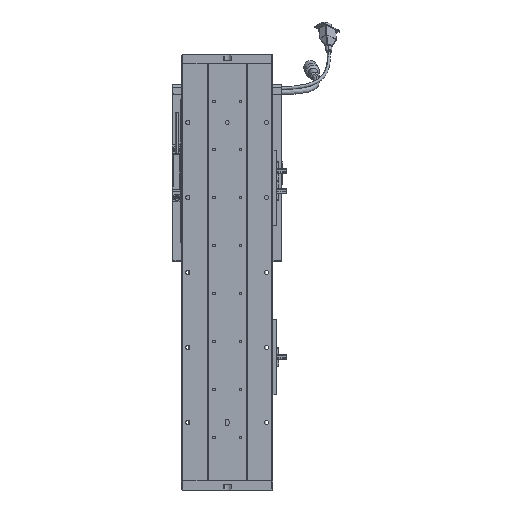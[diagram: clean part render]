
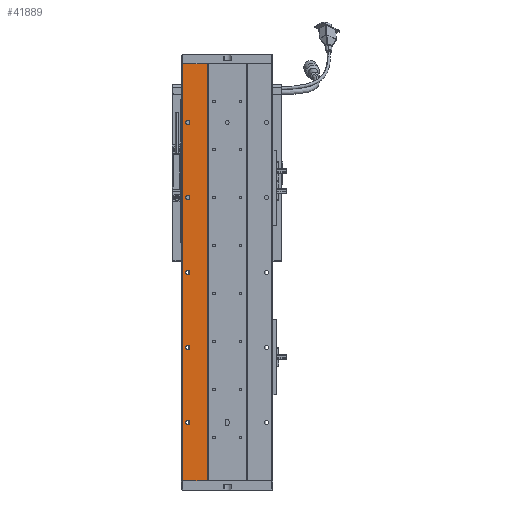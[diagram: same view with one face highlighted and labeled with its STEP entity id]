
A CAD part, front view. The second image highlights one B-rep face of the part: STEP entity #41889.
In plain terms, the highlighted planar face has unit normal (0, -1, 0).
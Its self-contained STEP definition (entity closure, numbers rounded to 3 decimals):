
#170 = EDGE_CURVE ( 'NONE', #13184, #20991, #50727, .T. ) ;
#188 = ORIENTED_EDGE ( 'NONE', *, *, #27366, .T. ) ;
#329 = VERTEX_POINT ( 'NONE', #19940 ) ;
#362 = AXIS2_PLACEMENT_3D ( 'NONE', #31883, #48908, #70758 ) ;
#965 = DIRECTION ( 'NONE',  ( 0., 1., 0. ) ) ;
#1473 = CARTESIAN_POINT ( 'NONE',  ( 102.625, 76.768, 380.75 ) ) ;
#1496 = VERTEX_POINT ( 'NONE', #48397 ) ;
#1870 = VERTEX_POINT ( 'NONE', #30576 ) ;
#4103 = AXIS2_PLACEMENT_3D ( 'NONE', #67833, #46185, #29647 ) ;
#4301 = AXIS2_PLACEMENT_3D ( 'NONE', #46359, #28596, #51931 ) ;
#4437 = ORIENTED_EDGE ( 'NONE', *, *, #34487, .T. ) ;
#4896 = CARTESIAN_POINT ( 'NONE',  ( 102.625, 76.768, 375.25 ) ) ;
#5286 = VECTOR ( 'NONE', #28447, 1000. ) ;
#6544 = DIRECTION ( 'NONE',  ( 0., 0., 1. ) ) ;
#6905 = DIRECTION ( 'NONE',  ( 0., 1., 0. ) ) ;
#7083 = CARTESIAN_POINT ( 'NONE',  ( 0., 76.768, 0. ) ) ;
#7270 = ORIENTED_EDGE ( 'NONE', *, *, #18474, .T. ) ;
#7287 = EDGE_CURVE ( 'NONE', #20991, #13184, #27241, .T. ) ;
#9016 = DIRECTION ( 'NONE',  ( 0., 0., 1. ) ) ;
#9675 = VECTOR ( 'NONE', #38355, 1000. ) ;
#9683 = ORIENTED_EDGE ( 'NONE', *, *, #55378, .T. ) ;
#9770 = FACE_OUTER_BOUND ( 'NONE', #53682, .T. ) ;
#10650 = CARTESIAN_POINT ( 'NONE',  ( 102.625, 76.768, 75.25 ) ) ;
#12932 = ORIENTED_EDGE ( 'NONE', *, *, #60046, .T. ) ;
#13184 = VERTEX_POINT ( 'NONE', #71368 ) ;
#13285 = FACE_BOUND ( 'NONE', #64942, .T. ) ;
#14391 = EDGE_CURVE ( 'NONE', #32029, #45362, #37037, .T. ) ;
#15965 = CARTESIAN_POINT ( 'NONE',  ( 102.625, 76.768, 78. ) ) ;
#16220 = CARTESIAN_POINT ( 'NONE',  ( 95.718, 76.768, 556. ) ) ;
#17291 = CIRCLE ( 'NONE', #66575, 2.75 ) ;
#17539 = DIRECTION ( 'NONE',  ( 0., 0., -1. ) ) ;
#18474 = EDGE_CURVE ( 'NONE', #67087, #71385, #54405, .T. ) ;
#19581 = VERTEX_POINT ( 'NONE', #51735 ) ;
#19783 = DIRECTION ( 'NONE',  ( 0., 0., 1. ) ) ;
#19940 = CARTESIAN_POINT ( 'NONE',  ( 102.625, 76.768, 275.25 ) ) ;
#20786 = DIRECTION ( 'NONE',  ( 0., 0., 1. ) ) ;
#20991 = VERTEX_POINT ( 'NONE', #64189 ) ;
#21822 = AXIS2_PLACEMENT_3D ( 'NONE', #15965, #32758, #49786 ) ;
#23296 = AXIS2_PLACEMENT_3D ( 'NONE', #29465, #63254, #46991 ) ;
#23820 = CARTESIAN_POINT ( 'NONE',  ( 128.625, 76.768, 556. ) ) ;
#24113 = CARTESIAN_POINT ( 'NONE',  ( 102.625, 76.768, 280.75 ) ) ;
#25010 = EDGE_CURVE ( 'NONE', #45362, #32029, #40916, .T. ) ;
#25746 = LINE ( 'NONE', #7083, #53598 ) ;
#27182 = CARTESIAN_POINT ( 'NONE',  ( 102.625, 76.768, 175.25 ) ) ;
#27241 = CIRCLE ( 'NONE', #60525, 2.75 ) ;
#27366 = EDGE_CURVE ( 'NONE', #42417, #329, #32644, .T. ) ;
#27481 = VERTEX_POINT ( 'NONE', #33086 ) ;
#27878 = LINE ( 'NONE', #16220, #9675 ) ;
#28447 = DIRECTION ( 'NONE',  ( -1., 0., 0. ) ) ;
#28596 = DIRECTION ( 'NONE',  ( 0., 1., 0. ) ) ;
#29190 = VERTEX_POINT ( 'NONE', #27182 ) ;
#29465 = CARTESIAN_POINT ( 'NONE',  ( 102.625, 76.768, 478. ) ) ;
#29647 = DIRECTION ( 'NONE',  ( 0., 0., 1. ) ) ;
#30576 = CARTESIAN_POINT ( 'NONE',  ( 95.718, 76.768, 556. ) ) ;
#30701 = EDGE_CURVE ( 'NONE', #1496, #1870, #27878, .T. ) ;
#31883 = CARTESIAN_POINT ( 'NONE',  ( 102.625, 76.768, 278. ) ) ;
#31902 = ORIENTED_EDGE ( 'NONE', *, *, #66125, .F. ) ;
#32029 = VERTEX_POINT ( 'NONE', #1473 ) ;
#32568 = DIRECTION ( 'NONE',  ( 0., 0., 1. ) ) ;
#32644 = CIRCLE ( 'NONE', #362, 2.75 ) ;
#32758 = DIRECTION ( 'NONE',  ( 0., 1., 0. ) ) ;
#33086 = CARTESIAN_POINT ( 'NONE',  ( 128.625, 76.768, 0. ) ) ;
#33250 = AXIS2_PLACEMENT_3D ( 'NONE', #69653, #47556, #19783 ) ;
#34487 = EDGE_CURVE ( 'NONE', #19581, #1870, #70472, .T. ) ;
#34677 = PLANE ( 'NONE',  #4301 ) ;
#34826 = DIRECTION ( 'NONE',  ( 0., 0., 1. ) ) ;
#35234 = ORIENTED_EDGE ( 'NONE', *, *, #25010, .T. ) ;
#35240 = DIRECTION ( 'NONE',  ( -1., 0., 0. ) ) ;
#37037 = CIRCLE ( 'NONE', #48720, 2.75 ) ;
#37423 = EDGE_CURVE ( 'NONE', #27481, #1496, #25746, .T. ) ;
#37694 = ORIENTED_EDGE ( 'NONE', *, *, #30701, .F. ) ;
#38355 = DIRECTION ( 'NONE',  ( 0., 0., 1. ) ) ;
#38408 = ORIENTED_EDGE ( 'NONE', *, *, #52062, .T. ) ;
#38461 = CIRCLE ( 'NONE', #59317, 2.75 ) ;
#39134 = ORIENTED_EDGE ( 'NONE', *, *, #55576, .T. ) ;
#40916 = CIRCLE ( 'NONE', #33250, 2.75 ) ;
#41889 = ADVANCED_FACE ( 'NONE', ( #54158, #50659, #56707, #13285, #68945, #9770 ), #34677, .F. ) ;
#42299 = DIRECTION ( 'NONE',  ( 0., 1., 0. ) ) ;
#42417 = VERTEX_POINT ( 'NONE', #24113 ) ;
#45362 = VERTEX_POINT ( 'NONE', #4896 ) ;
#46070 = CIRCLE ( 'NONE', #21822, 2.75 ) ;
#46185 = DIRECTION ( 'NONE',  ( 0., 1., 0. ) ) ;
#46359 = CARTESIAN_POINT ( 'NONE',  ( 84.971, 76.768, 0. ) ) ;
#46991 = DIRECTION ( 'NONE',  ( 0., 0., 1. ) ) ;
#47556 = DIRECTION ( 'NONE',  ( 0., 1., 0. ) ) ;
#48397 = CARTESIAN_POINT ( 'NONE',  ( 95.718, 76.768, 0. ) ) ;
#48720 = AXIS2_PLACEMENT_3D ( 'NONE', #50878, #6905, #34826 ) ;
#48908 = DIRECTION ( 'NONE',  ( 0., 1., 0. ) ) ;
#49786 = DIRECTION ( 'NONE',  ( 0., 0., 1. ) ) ;
#50291 = VERTEX_POINT ( 'NONE', #57092 ) ;
#50659 = FACE_BOUND ( 'NONE', #71962, .T. ) ;
#50727 = CIRCLE ( 'NONE', #23296, 2.75 ) ;
#50878 = CARTESIAN_POINT ( 'NONE',  ( 102.625, 76.768, 378. ) ) ;
#51735 = CARTESIAN_POINT ( 'NONE',  ( 128.625, 76.768, 556. ) ) ;
#51931 = DIRECTION ( 'NONE',  ( 0., 0., 1. ) ) ;
#52062 = EDGE_CURVE ( 'NONE', #329, #42417, #63844, .T. ) ;
#53345 = CARTESIAN_POINT ( 'NONE',  ( 102.625, 76.768, 80.75 ) ) ;
#53370 = ORIENTED_EDGE ( 'NONE', *, *, #14391, .T. ) ;
#53598 = VECTOR ( 'NONE', #35240, 1000. ) ;
#53682 = EDGE_LOOP ( 'NONE', ( #54684, #31902, #4437, #37694 ) ) ;
#54158 = FACE_BOUND ( 'NONE', #66452, .T. ) ;
#54405 = CIRCLE ( 'NONE', #4103, 2.75 ) ;
#54684 = ORIENTED_EDGE ( 'NONE', *, *, #37423, .F. ) ;
#55378 = EDGE_CURVE ( 'NONE', #50291, #29190, #17291, .T. ) ;
#55576 = EDGE_CURVE ( 'NONE', #71385, #67087, #46070, .T. ) ;
#55876 = CARTESIAN_POINT ( 'NONE',  ( 102.625, 76.768, 178. ) ) ;
#56707 = FACE_BOUND ( 'NONE', #62152, .T. ) ;
#57092 = CARTESIAN_POINT ( 'NONE',  ( 102.625, 76.768, 180.75 ) ) ;
#58537 = ORIENTED_EDGE ( 'NONE', *, *, #7287, .T. ) ;
#59317 = AXIS2_PLACEMENT_3D ( 'NONE', #55876, #965, #6544 ) ;
#59509 = CARTESIAN_POINT ( 'NONE',  ( 102.625, 76.768, 278. ) ) ;
#60046 = EDGE_CURVE ( 'NONE', #29190, #50291, #38461, .T. ) ;
#60214 = CARTESIAN_POINT ( 'NONE',  ( 102.625, 76.768, 178. ) ) ;
#60285 = CARTESIAN_POINT ( 'NONE',  ( 102.625, 76.768, 478. ) ) ;
#60439 = LINE ( 'NONE', #23820, #70884 ) ;
#60525 = AXIS2_PLACEMENT_3D ( 'NONE', #60285, #65867, #32568 ) ;
#61258 = AXIS2_PLACEMENT_3D ( 'NONE', #59509, #42299, #9016 ) ;
#62017 = ORIENTED_EDGE ( 'NONE', *, *, #170, .T. ) ;
#62152 = EDGE_LOOP ( 'NONE', ( #7270, #39134 ) ) ;
#63254 = DIRECTION ( 'NONE',  ( 0., 1., 0. ) ) ;
#63844 = CIRCLE ( 'NONE', #61258, 2.75 ) ;
#64189 = CARTESIAN_POINT ( 'NONE',  ( 102.625, 76.768, 475.25 ) ) ;
#64942 = EDGE_LOOP ( 'NONE', ( #9683, #12932 ) ) ;
#65867 = DIRECTION ( 'NONE',  ( 0., 1., 0. ) ) ;
#66125 = EDGE_CURVE ( 'NONE', #19581, #27481, #60439, .T. ) ;
#66452 = EDGE_LOOP ( 'NONE', ( #62017, #58537 ) ) ;
#66575 = AXIS2_PLACEMENT_3D ( 'NONE', #60214, #71382, #20786 ) ;
#67087 = VERTEX_POINT ( 'NONE', #53345 ) ;
#67366 = CARTESIAN_POINT ( 'NONE',  ( 84.971, 76.768, 556. ) ) ;
#67833 = CARTESIAN_POINT ( 'NONE',  ( 102.625, 76.768, 78. ) ) ;
#68381 = EDGE_LOOP ( 'NONE', ( #188, #38408 ) ) ;
#68945 = FACE_BOUND ( 'NONE', #68381, .T. ) ;
#69653 = CARTESIAN_POINT ( 'NONE',  ( 102.625, 76.768, 378. ) ) ;
#70472 = LINE ( 'NONE', #67366, #5286 ) ;
#70758 = DIRECTION ( 'NONE',  ( 0., 0., 1. ) ) ;
#70884 = VECTOR ( 'NONE', #17539, 1000. ) ;
#71368 = CARTESIAN_POINT ( 'NONE',  ( 102.625, 76.768, 480.75 ) ) ;
#71382 = DIRECTION ( 'NONE',  ( 0., 1., 0. ) ) ;
#71385 = VERTEX_POINT ( 'NONE', #10650 ) ;
#71962 = EDGE_LOOP ( 'NONE', ( #53370, #35234 ) ) ;
